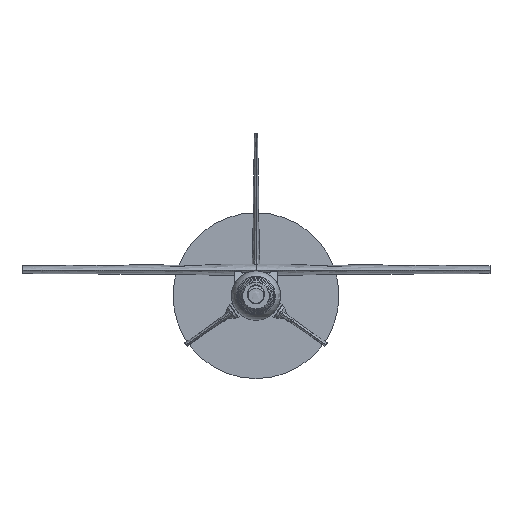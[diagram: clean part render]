
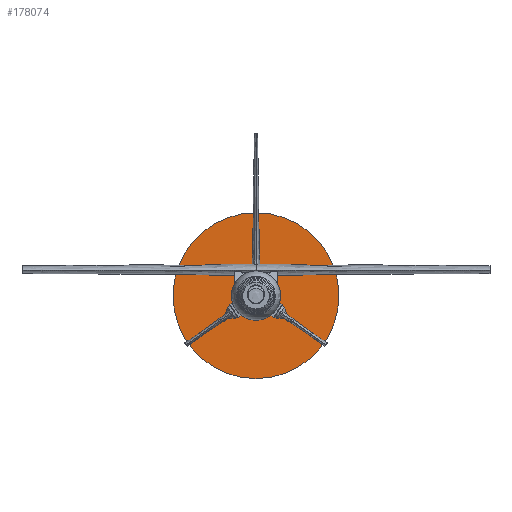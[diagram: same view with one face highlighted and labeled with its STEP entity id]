
A CAD part, left-side view. The second image highlights one B-rep face of the part: STEP entity #178074.
In plain terms, the highlighted planar face has unit normal (-1, 0, 0).
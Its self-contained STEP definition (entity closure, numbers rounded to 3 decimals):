
#177996 = CYLINDRICAL_SURFACE('',#177997,76.2);
#177997 = AXIS2_PLACEMENT_3D('',#177998,#177999,#178000);
#177998 = CARTESIAN_POINT('',(444.5,0.,0.));
#177999 = DIRECTION('',(1.,0.,0.));
#178000 = DIRECTION('',(-0.,0.,1.));
#178021 = VERTEX_POINT('',#178022);
#178022 = CARTESIAN_POINT('',(444.5,0.,76.2));
#178043 = EDGE_CURVE('',#178021,#178021,#178044,.T.);
#178044 = SURFACE_CURVE('',#178045,(#178050,#178057),.PCURVE_S1.);
#178045 = CIRCLE('',#178046,76.2);
#178046 = AXIS2_PLACEMENT_3D('',#178047,#178048,#178049);
#178047 = CARTESIAN_POINT('',(444.5,0.,0.));
#178048 = DIRECTION('',(1.,0.,0.));
#178049 = DIRECTION('',(-0.,0.,1.));
#178050 = PCURVE('',#177996,#178051);
#178051 = DEFINITIONAL_REPRESENTATION('',(#178052),#178056);
#178052 = LINE('',#178053,#178054);
#178053 = CARTESIAN_POINT('',(0.,0.));
#178054 = VECTOR('',#178055,1.);
#178055 = DIRECTION('',(1.,0.));
#178056 = ( GEOMETRIC_REPRESENTATION_CONTEXT(2) 
PARAMETRIC_REPRESENTATION_CONTEXT() REPRESENTATION_CONTEXT('2D SPACE',''
  ) );
#178057 = PCURVE('',#178058,#178063);
#178058 = PLANE('',#178059);
#178059 = AXIS2_PLACEMENT_3D('',#178060,#178061,#178062);
#178060 = CARTESIAN_POINT('',(444.5,0.,0.));
#178061 = DIRECTION('',(1.,0.,0.));
#178062 = DIRECTION('',(-0.,0.,1.));
#178063 = DEFINITIONAL_REPRESENTATION('',(#178064),#178068);
#178064 = CIRCLE('',#178065,76.2);
#178065 = AXIS2_PLACEMENT_2D('',#178066,#178067);
#178066 = CARTESIAN_POINT('',(0.,0.));
#178067 = DIRECTION('',(1.,0.));
#178068 = ( GEOMETRIC_REPRESENTATION_CONTEXT(2) 
PARAMETRIC_REPRESENTATION_CONTEXT() REPRESENTATION_CONTEXT('2D SPACE',''
  ) );
#178074 = ADVANCED_FACE('',(#178075),#178058,.F.);
#178075 = FACE_BOUND('',#178076,.T.);
#178076 = EDGE_LOOP('',(#178077));
#178077 = ORIENTED_EDGE('',*,*,#178043,.F.);
